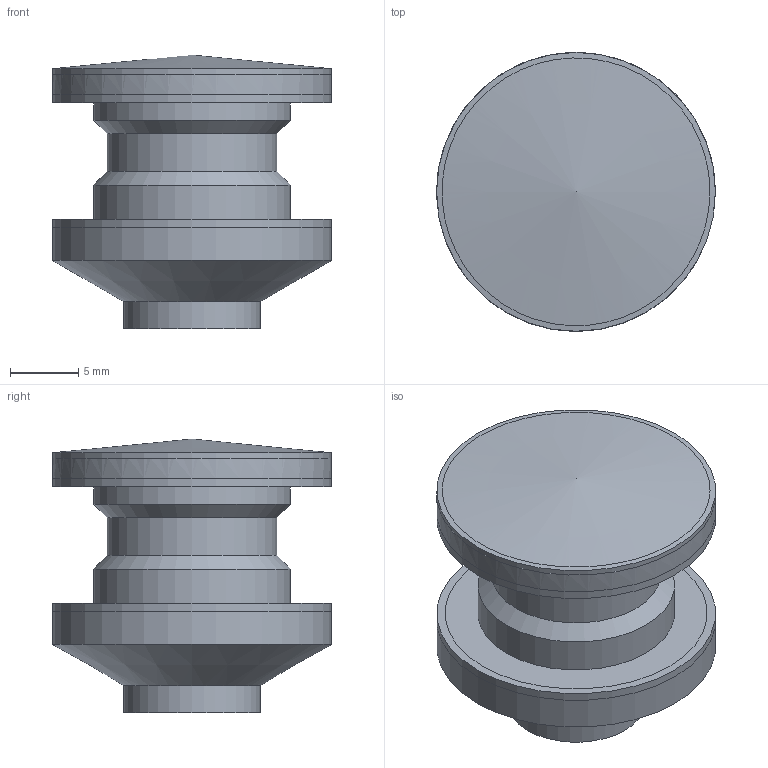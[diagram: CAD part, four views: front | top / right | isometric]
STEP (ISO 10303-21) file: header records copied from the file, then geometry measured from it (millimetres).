
FILE_DESCRIPTION(('FreeCAD Model'),'2;1');
FILE_NAME('D:/Desktop/3d parts/zip/motor-roller.step', '2021-10-14T19:07:50',('Author'),(''), 'Open CASCADE STEP processor 7.3','FreeCAD','Unknown');
FILE_SCHEMA(('AUTOMOTIVE_DESIGN { 1 0 10303 214 1 1 1 1 }'));
Length unit declared in the file: millimetre
Products named in the file (9): Chamfer; Chamfer001; Revolution; Sketch; Sketch001; Motor_Roller_Refined; Motor_Roller_Refined_(Solid); Simple_Copy; Pocket
Bounding box: 20.36 x 20.36 x 20 mm (x, y, z)
Surface area: 14294 mm2
Topology: 7 solids, 7 shells, 123 faces, 241 edges, 161 vertices
Faces by surface type: cylinder 48, cone 38, plane 33, bspline 4
Full cylindrical faces by diameter (mm): 10 x7, 12.36 x7, 14.36 x14, 20.36 x14
Entity records: 6358 total; most frequent: CARTESIAN_POINT 1379, DIRECTION 959, LINE 472, VECTOR 472, ORIENTED_EDGE 436, PCURVE 436, DEFINITIONAL_REPRESENTATION 436, AXIS2_PLACEMENT_3D 223
